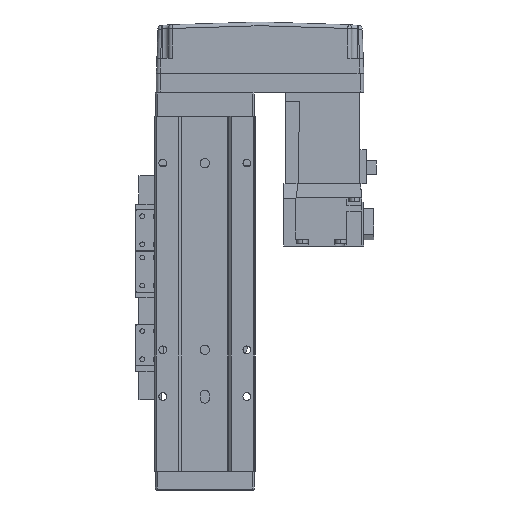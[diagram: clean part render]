
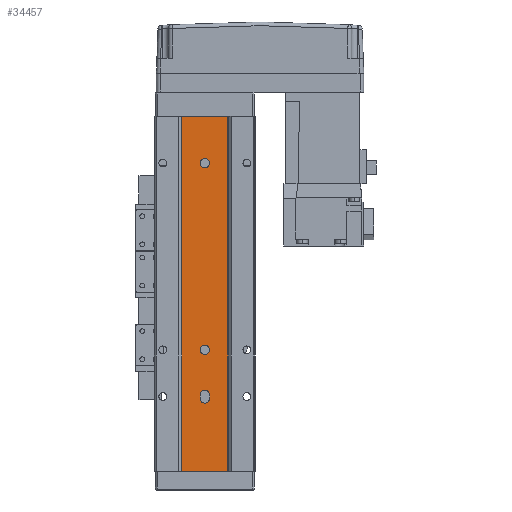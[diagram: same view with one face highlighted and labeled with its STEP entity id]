
A CAD part, front view. The second image highlights one B-rep face of the part: STEP entity #34457.
In plain terms, the highlighted planar face has unit normal (0, -1, 0).
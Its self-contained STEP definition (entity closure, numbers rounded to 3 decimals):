
#360 = EDGE_CURVE ( 'NONE', #9287, #11668, #35359, .T. ) ;
#1672 = CARTESIAN_POINT ( 'NONE',  ( 0., 1.5, -151. ) ) ;
#2146 = LINE ( 'NONE', #35243, #4752 ) ;
#2246 = CARTESIAN_POINT ( 'NONE',  ( 0., 1.5, -149. ) ) ;
#2358 = DIRECTION ( 'NONE',  ( 0., 0., -1. ) ) ;
#2561 = CIRCLE ( 'NONE', #13119, 2.5 ) ;
#2562 = AXIS2_PLACEMENT_3D ( 'NONE', #35034, #6854, #23751 ) ;
#3011 = EDGE_CURVE ( 'NONE', #5423, #32696, #29760, .T. ) ;
#3144 = DIRECTION ( 'NONE',  ( 1., 0., 0. ) ) ;
#3420 = AXIS2_PLACEMENT_3D ( 'NONE', #28353, #14226, #17034 ) ;
#3451 = LINE ( 'NONE', #5805, #9998 ) ;
#3654 = DIRECTION ( 'NONE',  ( 0., -1., 0. ) ) ;
#3800 = EDGE_CURVE ( 'NONE', #4236, #26862, #2561, .T. ) ;
#3896 = CARTESIAN_POINT ( 'NONE',  ( -12.293, 1.5, -190. ) ) ;
#4236 = VERTEX_POINT ( 'NONE', #10022 ) ;
#4282 = VECTOR ( 'NONE', #2358, 1000. ) ;
#4347 = DIRECTION ( 'NONE',  ( 0., -1., 0. ) ) ;
#4528 = ORIENTED_EDGE ( 'NONE', *, *, #16246, .F. ) ;
#4752 = VECTOR ( 'NONE', #35010, 1000. ) ;
#4811 = VERTEX_POINT ( 'NONE', #24326 ) ;
#5423 = VERTEX_POINT ( 'NONE', #10562 ) ;
#5805 = CARTESIAN_POINT ( 'NONE',  ( 12.293, 1.5, 0. ) ) ;
#5962 = EDGE_CURVE ( 'NONE', #29166, #11288, #29350, .T. ) ;
#6174 = EDGE_CURVE ( 'NONE', #27181, #18743, #6918, .T. ) ;
#6212 = CARTESIAN_POINT ( 'NONE',  ( -2.5, 1.5, -149. ) ) ;
#6532 = CARTESIAN_POINT ( 'NONE',  ( 0., 1.5, -125. ) ) ;
#6585 = EDGE_CURVE ( 'NONE', #26862, #29166, #18671, .T. ) ;
#6854 = DIRECTION ( 'NONE',  ( 0., -1., 0. ) ) ;
#6914 = DIRECTION ( 'NONE',  ( 0., 0., 1. ) ) ;
#6918 = LINE ( 'NONE', #21985, #26651 ) ;
#6968 = CARTESIAN_POINT ( 'NONE',  ( 2.5, 1.5, -125. ) ) ;
#7246 = EDGE_CURVE ( 'NONE', #11668, #18743, #3451, .T. ) ;
#7811 = DIRECTION ( 'NONE',  ( 0., -1., 0. ) ) ;
#7966 = CARTESIAN_POINT ( 'NONE',  ( -12.293, 1.5, 0. ) ) ;
#9287 = VERTEX_POINT ( 'NONE', #10189 ) ;
#9998 = VECTOR ( 'NONE', #3144, 1000. ) ;
#10022 = CARTESIAN_POINT ( 'NONE',  ( 2.5, 1.5, -149. ) ) ;
#10189 = CARTESIAN_POINT ( 'NONE',  ( -12.293, 1.5, -190. ) ) ;
#10406 = ORIENTED_EDGE ( 'NONE', *, *, #3011, .F. ) ;
#10562 = CARTESIAN_POINT ( 'NONE',  ( -2.5, 1.5, -25. ) ) ;
#11288 = VERTEX_POINT ( 'NONE', #17271 ) ;
#11668 = VERTEX_POINT ( 'NONE', #7966 ) ;
#11981 = VERTEX_POINT ( 'NONE', #6968 ) ;
#12644 = CARTESIAN_POINT ( 'NONE',  ( 12.293, 1.5, 0. ) ) ;
#12702 = EDGE_LOOP ( 'NONE', ( #32058, #19729, #13477, #22836 ) ) ;
#13119 = AXIS2_PLACEMENT_3D ( 'NONE', #2246, #7811, #18821 ) ;
#13477 = ORIENTED_EDGE ( 'NONE', *, *, #25917, .T. ) ;
#13520 = ORIENTED_EDGE ( 'NONE', *, *, #3800, .F. ) ;
#14226 = DIRECTION ( 'NONE',  ( 0., -1., 0. ) ) ;
#14703 = CIRCLE ( 'NONE', #29110, 2.5 ) ;
#15138 = EDGE_CURVE ( 'NONE', #11981, #4811, #14703, .T. ) ;
#15508 = EDGE_LOOP ( 'NONE', ( #15671, #21134, #13520, #32945 ) ) ;
#15671 = ORIENTED_EDGE ( 'NONE', *, *, #5962, .F. ) ;
#16204 = CARTESIAN_POINT ( 'NONE',  ( -2.5, 1.5, -190. ) ) ;
#16246 = EDGE_CURVE ( 'NONE', #32696, #5423, #23375, .T. ) ;
#16669 = DIRECTION ( 'NONE',  ( 1., 0., 0. ) ) ;
#16713 = DIRECTION ( 'NONE',  ( 0., 0., 1. ) ) ;
#17034 = DIRECTION ( 'NONE',  ( 1., 0., 0. ) ) ;
#17271 = CARTESIAN_POINT ( 'NONE',  ( 2.5, 1.5, -151. ) ) ;
#18596 = EDGE_CURVE ( 'NONE', #4811, #11981, #27844, .T. ) ;
#18671 = LINE ( 'NONE', #16204, #4282 ) ;
#18743 = VERTEX_POINT ( 'NONE', #12644 ) ;
#18821 = DIRECTION ( 'NONE',  ( 1., 0., 0. ) ) ;
#19080 = DIRECTION ( 'NONE',  ( 0., -1., 0. ) ) ;
#19188 = FACE_OUTER_BOUND ( 'NONE', #12702, .T. ) ;
#19729 = ORIENTED_EDGE ( 'NONE', *, *, #360, .F. ) ;
#20278 = EDGE_LOOP ( 'NONE', ( #4528, #10406 ) ) ;
#20933 = FACE_BOUND ( 'NONE', #20278, .T. ) ;
#21134 = ORIENTED_EDGE ( 'NONE', *, *, #6585, .F. ) ;
#21315 = VECTOR ( 'NONE', #16669, 1000. ) ;
#21760 = CARTESIAN_POINT ( 'NONE',  ( 0., 1.5, -125. ) ) ;
#21865 = EDGE_LOOP ( 'NONE', ( #26813, #26223 ) ) ;
#21985 = CARTESIAN_POINT ( 'NONE',  ( 12.293, 1.5, -190. ) ) ;
#22211 = PLANE ( 'NONE',  #31160 ) ;
#22294 = AXIS2_PLACEMENT_3D ( 'NONE', #1672, #4347, #32414 ) ;
#22563 = CARTESIAN_POINT ( 'NONE',  ( 12.293, 1.5, -190. ) ) ;
#22584 = DIRECTION ( 'NONE',  ( 0., -1., 0. ) ) ;
#22836 = ORIENTED_EDGE ( 'NONE', *, *, #6174, .T. ) ;
#23375 = CIRCLE ( 'NONE', #3420, 2.5 ) ;
#23487 = VECTOR ( 'NONE', #6914, 1000. ) ;
#23751 = DIRECTION ( 'NONE',  ( 1., 0., 0. ) ) ;
#24326 = CARTESIAN_POINT ( 'NONE',  ( -2.5, 1.5, -125. ) ) ;
#24993 = DIRECTION ( 'NONE',  ( 1., 0., 0. ) ) ;
#25651 = EDGE_CURVE ( 'NONE', #11288, #4236, #2146, .T. ) ;
#25792 = CARTESIAN_POINT ( 'NONE',  ( -2.5, 1.5, -151. ) ) ;
#25917 = EDGE_CURVE ( 'NONE', #9287, #27181, #28808, .T. ) ;
#26223 = ORIENTED_EDGE ( 'NONE', *, *, #18596, .F. ) ;
#26651 = VECTOR ( 'NONE', #16713, 1000. ) ;
#26693 = FACE_BOUND ( 'NONE', #15508, .T. ) ;
#26813 = ORIENTED_EDGE ( 'NONE', *, *, #15138, .F. ) ;
#26862 = VERTEX_POINT ( 'NONE', #6212 ) ;
#27181 = VERTEX_POINT ( 'NONE', #36302 ) ;
#27844 = CIRCLE ( 'NONE', #29032, 2.5 ) ;
#28353 = CARTESIAN_POINT ( 'NONE',  ( 0., 1.5, -25. ) ) ;
#28808 = LINE ( 'NONE', #22563, #21315 ) ;
#29032 = AXIS2_PLACEMENT_3D ( 'NONE', #6532, #3654, #29202 ) ;
#29110 = AXIS2_PLACEMENT_3D ( 'NONE', #21760, #19080, #24993 ) ;
#29166 = VERTEX_POINT ( 'NONE', #25792 ) ;
#29202 = DIRECTION ( 'NONE',  ( 1., 0., 0. ) ) ;
#29350 = CIRCLE ( 'NONE', #22294, 2.5 ) ;
#29760 = CIRCLE ( 'NONE', #2562, 2.5 ) ;
#31144 = DIRECTION ( 'NONE',  ( 1., 0., 0. ) ) ;
#31160 = AXIS2_PLACEMENT_3D ( 'NONE', #33899, #22584, #31144 ) ;
#31984 = FACE_BOUND ( 'NONE', #21865, .T. ) ;
#32058 = ORIENTED_EDGE ( 'NONE', *, *, #7246, .F. ) ;
#32414 = DIRECTION ( 'NONE',  ( 1., 0., 0. ) ) ;
#32696 = VERTEX_POINT ( 'NONE', #35753 ) ;
#32945 = ORIENTED_EDGE ( 'NONE', *, *, #25651, .F. ) ;
#33899 = CARTESIAN_POINT ( 'NONE',  ( 12.293, 1.5, -190. ) ) ;
#34457 = ADVANCED_FACE ( 'NONE', ( #26693, #31984, #20933, #19188 ), #22211, .T. ) ;
#35010 = DIRECTION ( 'NONE',  ( 0., 0., 1. ) ) ;
#35034 = CARTESIAN_POINT ( 'NONE',  ( 0., 1.5, -25. ) ) ;
#35243 = CARTESIAN_POINT ( 'NONE',  ( 2.5, 1.5, -190. ) ) ;
#35359 = LINE ( 'NONE', #3896, #23487 ) ;
#35753 = CARTESIAN_POINT ( 'NONE',  ( 2.5, 1.5, -25. ) ) ;
#36302 = CARTESIAN_POINT ( 'NONE',  ( 12.293, 1.5, -190. ) ) ;
